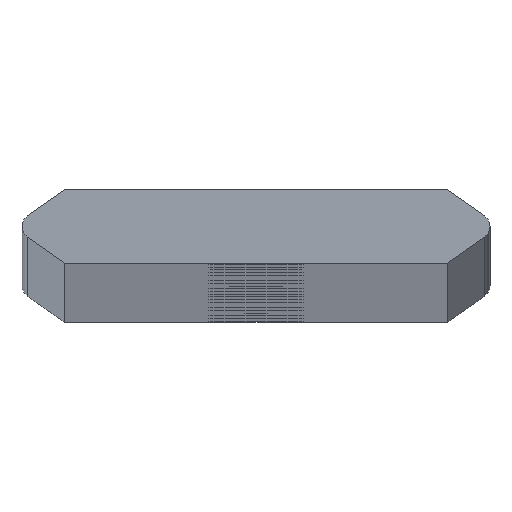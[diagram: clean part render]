
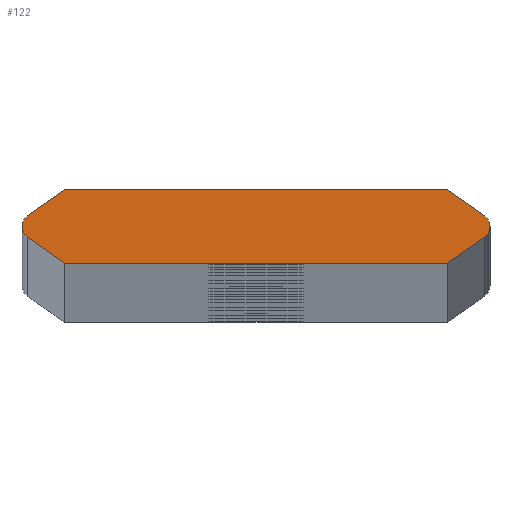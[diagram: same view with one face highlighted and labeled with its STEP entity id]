
A CAD part, top view. The second image highlights one B-rep face of the part: STEP entity #122.
In plain terms, the highlighted planar face has unit normal (0, 0, 1).
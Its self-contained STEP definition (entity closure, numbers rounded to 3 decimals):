
#122=ADVANCED_FACE('',(#226),#227,.T.);
#226=FACE_OUTER_BOUND('',#382,.T.);
#227=PLANE('',#383);
#382=EDGE_LOOP('',(#773,#774,#775,#776,#777,#778,#779,#780,#781,#782));
#383=AXIS2_PLACEMENT_3D('',#783,#784,#785);
#773=ORIENTED_EDGE('',*,*,#941,.T.);
#774=ORIENTED_EDGE('',*,*,#1078,.T.);
#775=ORIENTED_EDGE('',*,*,#1079,.F.);
#776=ORIENTED_EDGE('',*,*,#1080,.F.);
#777=ORIENTED_EDGE('',*,*,#1081,.F.);
#778=ORIENTED_EDGE('',*,*,#937,.T.);
#779=ORIENTED_EDGE('',*,*,#1082,.T.);
#780=ORIENTED_EDGE('',*,*,#1083,.F.);
#781=ORIENTED_EDGE('',*,*,#1084,.F.);
#782=ORIENTED_EDGE('',*,*,#1085,.F.);
#783=CARTESIAN_POINT('',(0.0,0.,1976.0));
#784=DIRECTION('',(0.0,0.0,1.0));
#785=DIRECTION('',(1.0,0.0,0.0));
#937=EDGE_CURVE('',#1101,#1098,#1102,.T.);
#941=EDGE_CURVE('',#1109,#1106,#1110,.T.);
#1078=EDGE_CURVE('',#1106,#1336,#1338,.T.);
#1079=EDGE_CURVE('',#1339,#1336,#1340,.T.);
#1080=EDGE_CURVE('',#1341,#1339,#1342,.T.);
#1081=EDGE_CURVE('',#1101,#1341,#1343,.T.);
#1082=EDGE_CURVE('',#1098,#1344,#1345,.T.);
#1083=EDGE_CURVE('',#1346,#1344,#1347,.T.);
#1084=EDGE_CURVE('',#1348,#1346,#1349,.T.);
#1085=EDGE_CURVE('',#1109,#1348,#1350,.T.);
#1098=VERTEX_POINT('',#1368);
#1101=VERTEX_POINT('',#1372);
#1102=CIRCLE('',#1373,0.76);
#1106=VERTEX_POINT('',#1378);
#1109=VERTEX_POINT('',#1382);
#1110=CIRCLE('',#1383,0.76);
#1336=VERTEX_POINT('',#1654);
#1338=CIRCLE('',#1657,0.76);
#1339=VERTEX_POINT('',#1658);
#1340=LINE('',#1659,#1660);
#1341=VERTEX_POINT('',#1661);
#1342=LINE('',#1662,#1663);
#1343=LINE('',#1664,#1665);
#1344=VERTEX_POINT('',#1666);
#1345=CIRCLE('',#1667,0.76);
#1346=VERTEX_POINT('',#1668);
#1347=LINE('',#1669,#1670);
#1348=VERTEX_POINT('',#1671);
#1349=LINE('',#1672,#1673);
#1350=LINE('',#1674,#1675);
#1368=CARTESIAN_POINT('',(13.62,0.,1976.0));
#1372=CARTESIAN_POINT('',(13.299,-0.62,1976.0));
#1373=AXIS2_PLACEMENT_3D('',#1705,#1706,#1707);
#1378=CARTESIAN_POINT('',(-13.62,0.,1976.0));
#1382=CARTESIAN_POINT('',(-13.299,0.62,1976.0));
#1383=AXIS2_PLACEMENT_3D('',#1713,#1714,#1715);
#1654=CARTESIAN_POINT('',(-13.299,-0.62,1976.0));
#1657=AXIS2_PLACEMENT_3D('',#2032,#2033,#2034);
#1658=CARTESIAN_POINT('',(-11.136,-2.135,1976.0));
#1659=CARTESIAN_POINT('',(-14.185,0.,1976.0));
#1660=VECTOR('',#2035,1.0);
#1661=CARTESIAN_POINT('',(11.136,-2.135,1976.0));
#1662=CARTESIAN_POINT('',(11.136,-2.135,1976.0));
#1663=VECTOR('',#2036,1.0);
#1664=CARTESIAN_POINT('',(14.185,0.0,1976.0));
#1665=VECTOR('',#2037,1.0);
#1666=CARTESIAN_POINT('',(13.299,0.62,1976.0));
#1667=AXIS2_PLACEMENT_3D('',#2038,#2039,#2040);
#1668=CARTESIAN_POINT('',(11.136,2.135,1976.0));
#1669=CARTESIAN_POINT('',(14.185,0.0,1976.0));
#1670=VECTOR('',#2041,1.0);
#1671=CARTESIAN_POINT('',(-11.136,2.135,1976.0));
#1672=CARTESIAN_POINT('',(-11.136,2.135,1976.0));
#1673=VECTOR('',#2042,1.0);
#1674=CARTESIAN_POINT('',(-14.185,0.,1976.0));
#1675=VECTOR('',#2043,1.0);
#1705=CARTESIAN_POINT('',(12.86,0.0,1976.0));
#1706=DIRECTION('',(0.0,0.0,1.0));
#1707=DIRECTION('',(1.0,0.0,0.0));
#1713=CARTESIAN_POINT('',(-12.86,0.,1976.0));
#1714=DIRECTION('',(0.0,0.0,1.0));
#1715=DIRECTION('',(-1.0,0.,0.0));
#2032=CARTESIAN_POINT('',(-12.86,0.,1976.0));
#2033=DIRECTION('',(0.0,0.0,1.0));
#2034=DIRECTION('',(-1.0,0.,0.0));
#2035=DIRECTION('',(-0.819,0.574,0.0));
#2036=DIRECTION('',(-1.0,0.0,0.0));
#2037=DIRECTION('',(-0.819,-0.574,0.0));
#2038=CARTESIAN_POINT('',(12.86,0.0,1976.0));
#2039=DIRECTION('',(0.0,0.0,1.0));
#2040=DIRECTION('',(1.0,0.0,0.0));
#2041=DIRECTION('',(0.819,-0.574,0.0));
#2042=DIRECTION('',(1.0,0.,0.0));
#2043=DIRECTION('',(0.819,0.574,0.0));
